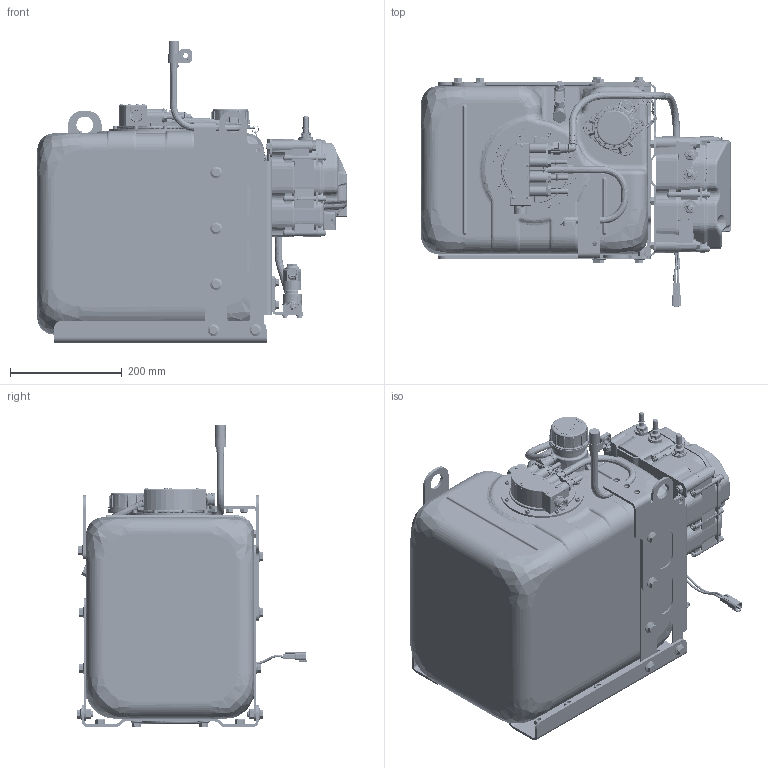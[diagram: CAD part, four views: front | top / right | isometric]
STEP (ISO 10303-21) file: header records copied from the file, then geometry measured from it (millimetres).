
FILE_DESCRIPTION(('FreeCAD Model'),'2;1');
FILE_NAME('Open CASCADE Shape Model','2025-11-14T16:01:49',(''),(''), 'Open CASCADE STEP processor 7.8','FreeCAD','Unknown');
FILE_SCHEMA(('AUTOMOTIVE_DESIGN { 1 0 10303 214 1 1 1 1 }'));
Length unit declared in the file: millimetre
Products named in the file (11): COMPOUND13425; COMPOUND13350; COMPOUND13351; COMPOUND13352; COMPOUND13353; COMPOUND13354; COMPOUND13355; COMPOUND13356; COMPOUND13357; COMPOUND13358; COMPOUND13359
Assembly tree (10 placements, depth 2):
  COMPOUND13425
    COMPOUND13350
    COMPOUND13351
    COMPOUND13352
    COMPOUND13353
    COMPOUND13354
    COMPOUND13355
    COMPOUND13356
    COMPOUND13357
    COMPOUND13358
    COMPOUND13359
Bounding box: 553.4 x 411.61 x 540 mm (x, y, z)
Volume: 47187198.6 mm3; surface area: 1578250.8 mm2
Topology: 10 solids, 66 shells, 17971 faces, 46700 edges, 28862 vertices
Faces by surface type: plane 6955, cylinder 4339, bspline 2716, torus 1674, cone 1078, sphere 596, revolution 394, extrusion 219
Entity records: 733689 total; most frequent: CARTESIAN_POINT 329046, ORIENTED_EDGE 92650, DIRECTION 71890, EDGE_CURVE 46325, VERTEX_POINT 28862, AXIS2_PLACEMENT_3D 24461, VECTOR 22574, LINE 22355
